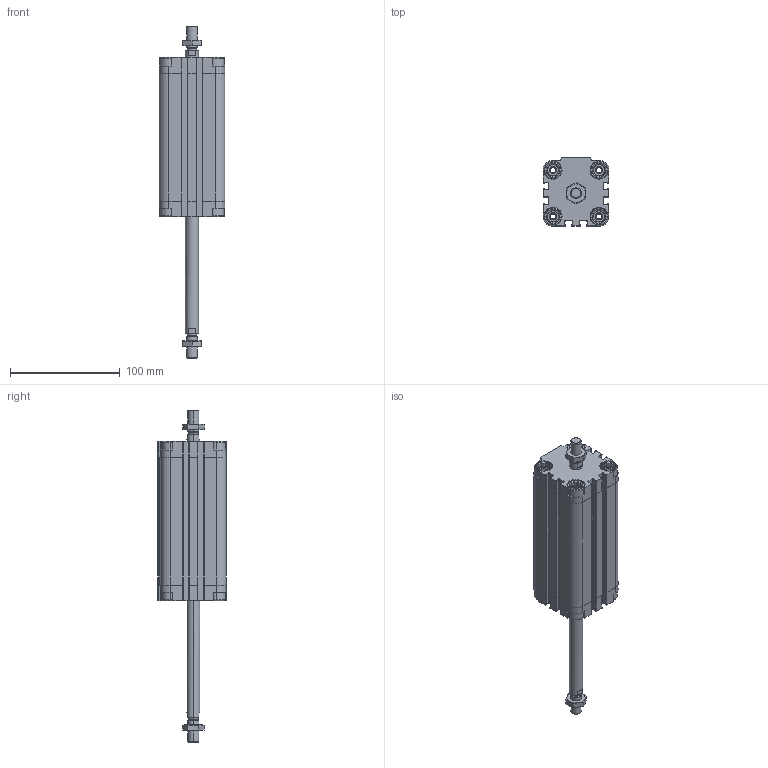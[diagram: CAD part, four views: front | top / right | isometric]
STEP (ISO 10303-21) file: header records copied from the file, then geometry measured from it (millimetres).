
FILE_DESCRIPTION (( 'STEP AP203' ), '1' );
FILE_NAME ('CDVU40-100M-P.STEP', '2020-07-21T15:17:19', ( '' ), ( '' ), 'SwSTEP 2.0', 'SolidWorks 2019', '' );
FILE_SCHEMA (( 'CONFIG_CONTROL_DESIGN' ));
Length unit declared in the file: millimetre
Products named in the file (1): CDVU40-100M-P
Bounding box: 60 x 62.5 x 302.5 mm (x, y, z)
Volume: 365990.5 mm3; surface area: 101506.2 mm2
Topology: 4 solids, 4 shells, 758 faces, 2004 edges, 1290 vertices
Faces by surface type: plane 438, cylinder 240, cone 80
Entity records: 24115 total; most frequent: CARTESIAN_POINT 5193, ORIENTED_EDGE 4000, DIRECTION 3862, EDGE_CURVE 2000, AXIS2_PLACEMENT_3D 1319, VERTEX_POINT 1290, VECTOR 1224, LINE 1224
